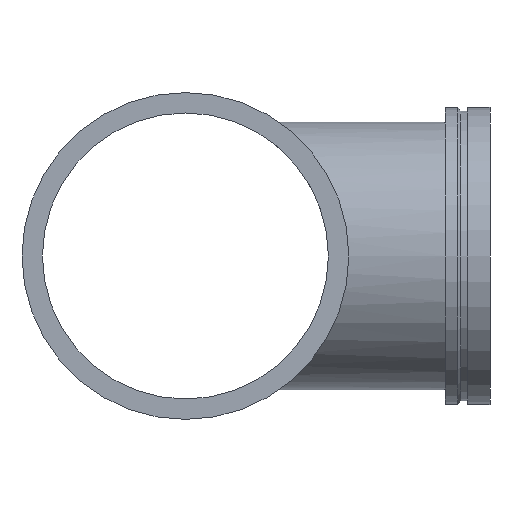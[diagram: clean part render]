
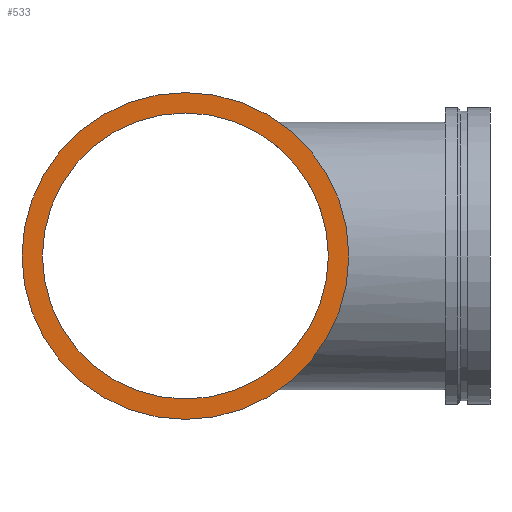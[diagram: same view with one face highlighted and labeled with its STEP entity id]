
A CAD part, left-side view. The second image highlights one B-rep face of the part: STEP entity #533.
In plain terms, the highlighted planar face has unit normal (-1, 0, 0).
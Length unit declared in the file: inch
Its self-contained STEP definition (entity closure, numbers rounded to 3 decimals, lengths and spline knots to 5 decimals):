
#58=FACE_BOUND('',#128,.T.);
#67=PLANE('',#626);
#92=FACE_OUTER_BOUND('',#127,.T.);
#127=EDGE_LOOP('',(#465,#466));
#128=EDGE_LOOP('',(#467,#468));
#151=CIRCLE('',#587,11.);
#152=CIRCLE('',#588,11.);
#175=CIRCLE('',#624,9.625);
#176=CIRCLE('',#625,9.625);
#239=VERTEX_POINT('',#1145);
#240=VERTEX_POINT('',#1147);
#263=VERTEX_POINT('',#1214);
#264=VERTEX_POINT('',#1216);
#299=EDGE_CURVE('',#239,#240,#151,.T.);
#300=EDGE_CURVE('',#240,#239,#152,.T.);
#331=EDGE_CURVE('',#264,#263,#175,.T.);
#332=EDGE_CURVE('',#263,#264,#176,.T.);
#465=ORIENTED_EDGE('',*,*,#300,.F.);
#466=ORIENTED_EDGE('',*,*,#299,.F.);
#467=ORIENTED_EDGE('',*,*,#331,.T.);
#468=ORIENTED_EDGE('',*,*,#332,.T.);
#533=ADVANCED_FACE('',(#92,#58),#67,.T.);
#587=AXIS2_PLACEMENT_3D('',#1148,#716,#717);
#588=AXIS2_PLACEMENT_3D('',#1149,#718,#719);
#624=AXIS2_PLACEMENT_3D('',#1217,#798,#799);
#625=AXIS2_PLACEMENT_3D('',#1218,#800,#801);
#626=AXIS2_PLACEMENT_3D('',#1219,#802,#803);
#716=DIRECTION('center_axis',(1.,0.,0.));
#717=DIRECTION('ref_axis',(0.,0.,1.));
#718=DIRECTION('center_axis',(1.,0.,0.));
#719=DIRECTION('ref_axis',(0.,0.,1.));
#798=DIRECTION('center_axis',(1.,0.,0.));
#799=DIRECTION('ref_axis',(0.,0.,1.));
#800=DIRECTION('center_axis',(1.,0.,0.));
#801=DIRECTION('ref_axis',(0.,0.,1.));
#802=DIRECTION('center_axis',(-1.,0.,0.));
#803=DIRECTION('ref_axis',(0.,0.,-1.));
#1145=CARTESIAN_POINT('',(-21.,11.,0.));
#1147=CARTESIAN_POINT('',(-21.,-11.,0.));
#1148=CARTESIAN_POINT('Origin',(-21.,0.,0.));
#1149=CARTESIAN_POINT('Origin',(-21.,0.,0.));
#1214=CARTESIAN_POINT('',(-21.,9.625,0.));
#1216=CARTESIAN_POINT('',(-21.,-9.625,0.));
#1217=CARTESIAN_POINT('Origin',(-21.,0.,0.));
#1218=CARTESIAN_POINT('Origin',(-21.,0.,0.));
#1219=CARTESIAN_POINT('Origin',(-21.,-11.,0.));
